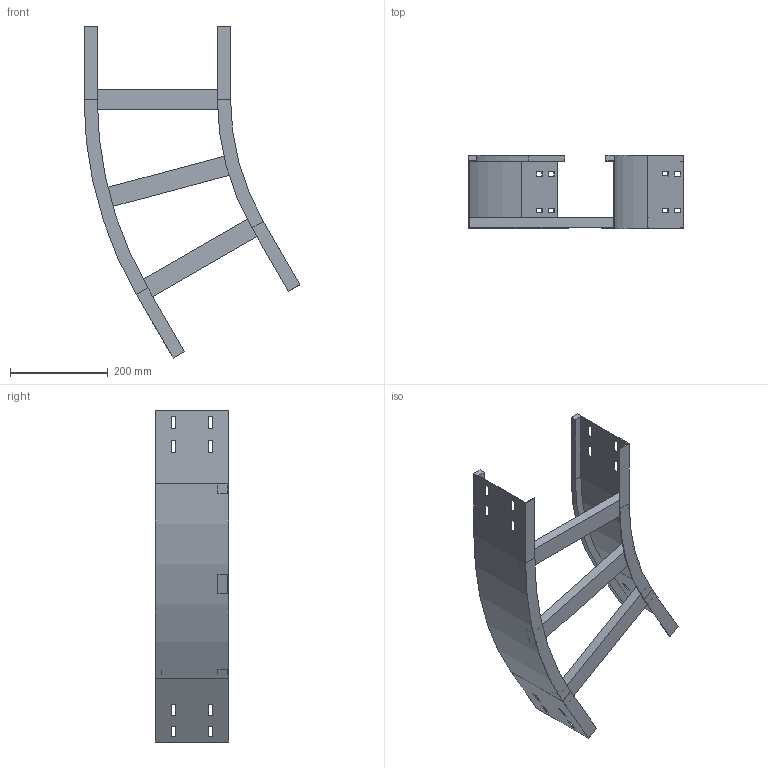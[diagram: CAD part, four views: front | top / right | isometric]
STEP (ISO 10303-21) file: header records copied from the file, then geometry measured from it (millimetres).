
FILE_DESCRIPTION (( 'STEP AP214' ), '1' );
FILE_NAME ('12J5F300.step', '2025-02-21T16:23:34', ( '' ), ( '' ), 'SwSTEP 2.0', 'SolidWorks 2023', '' );
FILE_SCHEMA (( 'AUTOMOTIVE_DESIGN' ));
Length unit declared in the file: millimetre
Products named in the file (4): TRAVERSINO_300; 12J5F300; LONGH.ESTERNO 30°_H150_R500+300; LONGH.INTERNO 30°_H150_R500
Assembly tree (5 placements, depth 2):
  12J5F300
    LONGH.INTERNO 30°_H150_R500
    LONGH.ESTERNO 30°_H150_R500+300
    TRAVERSINO_300  x3
Bounding box: 441.99 x 150 x 679.9 mm (x, y, z)
Volume: 1406207.7 mm3; surface area: 603793.9 mm2
Topology: 5 solids, 5 shells, 134 faces, 340 edges, 216 vertices
Faces by surface type: plane 126, cylinder 8
Entity records: 3821 total; most frequent: CARTESIAN_POINT 646, ORIENTED_EDGE 632, DIRECTION 592, EDGE_CURVE 316, LINE 300, VECTOR 300, VERTEX_POINT 200, EDGE_LOOP 154
